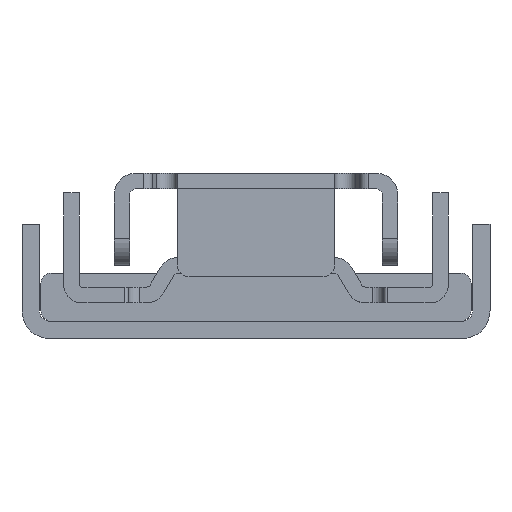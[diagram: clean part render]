
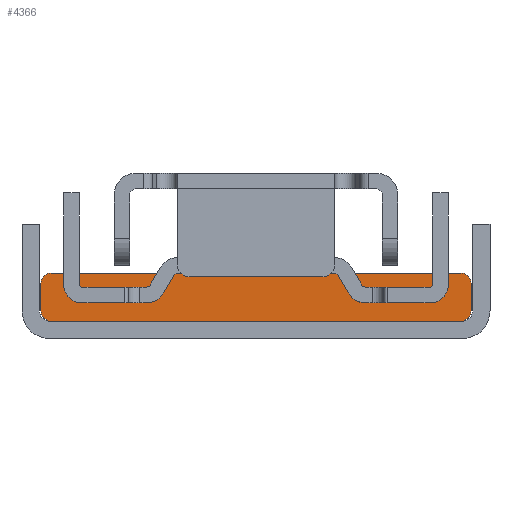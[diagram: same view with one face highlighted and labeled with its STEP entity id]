
A CAD part, front view. The second image highlights one B-rep face of the part: STEP entity #4366.
In plain terms, the highlighted planar face has unit normal (0, -1, 0) as drawn and (-1, 0, 0) by its records, which use the part's own axes.
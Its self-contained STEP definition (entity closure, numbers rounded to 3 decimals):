
#4190=DIRECTION('',(0.,0.,1.));
#4191=VECTOR('',#4190,46.6);
#4192=CARTESIAN_POINT('',(-100.5,0.,-23.3));
#4193=LINE('',#4192,#4191);
#4194=CARTESIAN_POINT('',(-100.5,1.2,23.3));
#4195=DIRECTION('',(-1.,0.,0.));
#4196=DIRECTION('',(0.,-1.,0.));
#4197=AXIS2_PLACEMENT_3D('',#4194,#4195,#4196);
#4199=CARTESIAN_POINT('',(-100.5,1.2,-23.3));
#4200=DIRECTION('',(-1.,0.,0.));
#4201=DIRECTION('',(0.,0.,-1.));
#4202=AXIS2_PLACEMENT_3D('',#4199,#4200,#4201);
#4204=DIRECTION('',(0.,1.,0.));
#4205=VECTOR('',#4204,3.1);
#4206=CARTESIAN_POINT('',(-100.5,1.2,-24.5));
#4207=LINE('',#4206,#4205);
#4208=CARTESIAN_POINT('',(-100.5,4.3,-23.3));
#4209=DIRECTION('',(-1.,0.,0.));
#4210=DIRECTION('',(0.,1.,0.));
#4211=AXIS2_PLACEMENT_3D('',#4208,#4209,#4210);
#4213=CARTESIAN_POINT('',(-100.5,4.3,23.3));
#4214=DIRECTION('',(-1.,0.,0.));
#4215=DIRECTION('',(0.,0.,1.));
#4216=AXIS2_PLACEMENT_3D('',#4213,#4214,#4215);
#4246=DIRECTION('',(0.,1.,0.));
#4247=VECTOR('',#4246,3.1);
#4248=CARTESIAN_POINT('',(-100.5,1.2,24.5));
#4249=LINE('',#4248,#4247);
#4258=DIRECTION('',(0.,0.,1.));
#4259=VECTOR('',#4258,46.6);
#4260=CARTESIAN_POINT('',(-100.5,5.5,-23.3));
#4261=LINE('',#4260,#4259);
#4282=CARTESIAN_POINT('',(-100.5,0.,23.3));
#4283=CARTESIAN_POINT('',(-100.5,1.2,24.5));
#4284=VERTEX_POINT('',#4282);
#4285=VERTEX_POINT('',#4283);
#4294=CARTESIAN_POINT('',(-100.5,4.3,24.5));
#4295=VERTEX_POINT('',#4294);
#4296=CARTESIAN_POINT('',(-100.5,5.5,23.3));
#4297=VERTEX_POINT('',#4296);
#4298=CARTESIAN_POINT('',(-100.5,5.5,-23.3));
#4299=CARTESIAN_POINT('',(-100.5,4.3,-24.5));
#4300=VERTEX_POINT('',#4298);
#4301=VERTEX_POINT('',#4299);
#4310=CARTESIAN_POINT('',(-100.5,1.2,-24.5));
#4311=VERTEX_POINT('',#4310);
#4312=CARTESIAN_POINT('',(-100.5,0.,-23.3));
#4313=VERTEX_POINT('',#4312);
#4345=CARTESIAN_POINT('',(-100.5,0.,-24.5));
#4346=DIRECTION('',(-1.,0.,0.));
#4347=DIRECTION('',(0.,0.,1.));
#4348=AXIS2_PLACEMENT_3D('',#4345,#4346,#4347);
#4349=PLANE('',#4348);
#4350=ORIENTED_EDGE('',*,*,#4335,.F.);
#4351=ORIENTED_EDGE('',*,*,#4325,.F.);
#4353=ORIENTED_EDGE('',*,*,#4352,.F.);
#4355=ORIENTED_EDGE('',*,*,#4354,.T.);
#4357=ORIENTED_EDGE('',*,*,#4356,.F.);
#4359=ORIENTED_EDGE('',*,*,#4358,.T.);
#4361=ORIENTED_EDGE('',*,*,#4360,.F.);
#4363=ORIENTED_EDGE('',*,*,#4362,.F.);
#4364=EDGE_LOOP('',(#4350,#4351,#4353,#4355,#4357,#4359,#4361,#4363));
#4365=FACE_OUTER_BOUND('',#4364,.F.);
#4366=ADVANCED_FACE('',(#4365),#4349,.T.);
#4198=CIRCLE('',#4197,1.2);
#4203=CIRCLE('',#4202,1.2);
#4212=CIRCLE('',#4211,1.2);
#4217=CIRCLE('',#4216,1.2);
#4325=EDGE_CURVE('',#4313,#4284,#4193,.T.);
#4335=EDGE_CURVE('',#4284,#4285,#4198,.T.);
#4352=EDGE_CURVE('',#4311,#4313,#4203,.T.);
#4354=EDGE_CURVE('',#4311,#4301,#4207,.T.);
#4356=EDGE_CURVE('',#4300,#4301,#4212,.T.);
#4358=EDGE_CURVE('',#4300,#4297,#4261,.T.);
#4360=EDGE_CURVE('',#4295,#4297,#4217,.T.);
#4362=EDGE_CURVE('',#4285,#4295,#4249,.T.);
